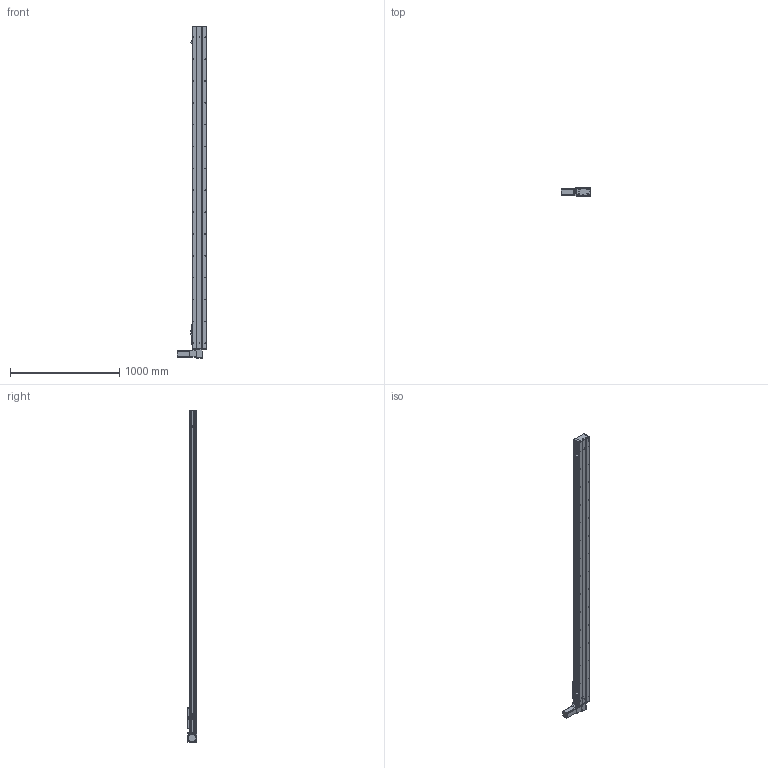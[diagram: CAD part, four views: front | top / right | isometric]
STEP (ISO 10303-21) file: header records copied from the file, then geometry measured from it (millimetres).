
FILE_DESCRIPTION (( 'STEP AP203' ), '1' );
FILE_NAME ('Y135CB-D90-S2650-BD-P400W.STEP', '2020-02-19T06:18:11', ( '微软用户' ), ( '微软中国' ), 'SwSTEP 2.0', 'SolidWorks 2017', '' );
FILE_SCHEMA (( 'CONFIG_CONTROL_DESIGN' ));
Length unit declared in the file: millimetre
Products named in the file (16): 135CB--詩湍-CE; Y100-135俋离換覜ん--; Y135C-陔俋离換覜結え-; Y135CB-耜裔; 5C--俋欶; 135CB---遴掛极.-; C-雄赽釱--; 35CB---喘謫眊楊擘啣; Y10B--々湍喘謫眊--666; san松下电机400不带刹车----; 0B-埴倛裔啣; 0B-薊粣ん眊; 5CB --掛极耜裔啣-; Y135CB-D90-S2650-BD-P400W; 0B-源倛裔啣; C-詩湍揤踡え-陔
Assembly tree (19 placements, depth 2):
  Y135CB-D90-S2650-BD-P400W
    Y135CB-耜裔
    135CB---遴掛极.-
    35CB---喘謫眊楊擘啣
    0B-埴倛裔啣
    0B-源倛裔啣
    san松下电机400不带刹车----
    5CB --掛极耜裔啣-  x2
    C-詩湍揤踡え-陔  x2
    135CB--詩湍-CE
    Y100-135俋离換覜ん--  x3
    Y135C-陔俋离換覜結え-
    5C--俋欶
    C-雄赽釱--
    Y10B--々湍喘謫眊--666
    0B-薊粣ん眊
Bounding box: 272 x 91 x 3038 mm (x, y, z)
Volume: 8671752.9 mm3; surface area: 3392633.2 mm2
Topology: 19 solids, 19 shells, 887 faces, 2410 edges, 1596 vertices
Faces by surface type: cylinder 456, plane 415, cone 16
Entity records: 27742 total; most frequent: CARTESIAN_POINT 4719, DIRECTION 4606, ORIENTED_EDGE 4296, EDGE_CURVE 2148, AXIS2_PLACEMENT_3D 1699, VERTEX_POINT 1424, LINE 1208, VECTOR 1208
